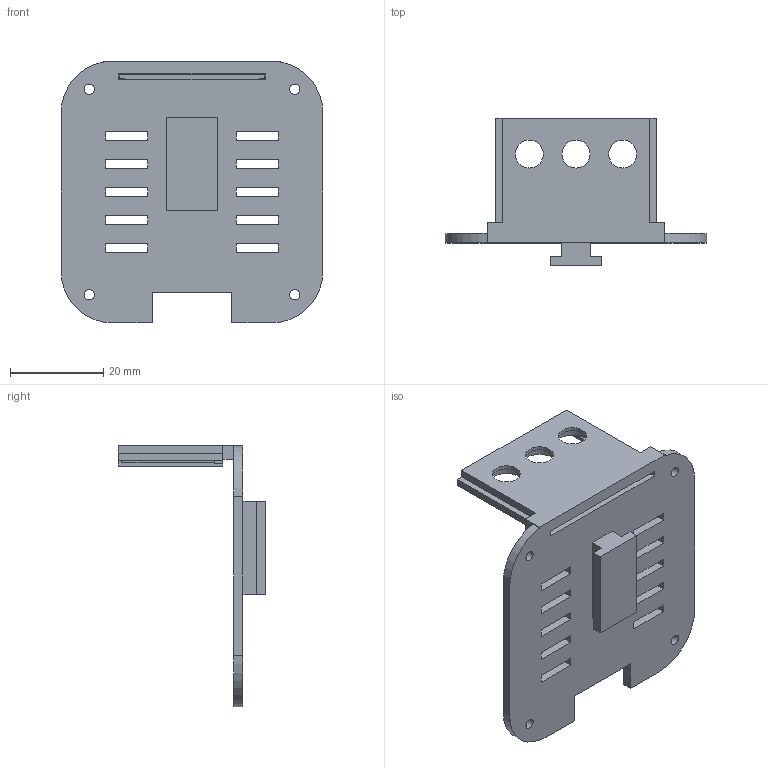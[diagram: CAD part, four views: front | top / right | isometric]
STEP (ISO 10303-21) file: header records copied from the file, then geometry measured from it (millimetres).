
FILE_DESCRIPTION(('Open CASCADE Model'),'2;1');
FILE_NAME('Open CASCADE Shape Model','2026-09-28T23:13:59',('Author'),( 'Open CASCADE'),'Open CASCADE STEP processor 7.8','Open CASCADE 7.8' ,'Unknown');
FILE_SCHEMA(('AUTOMOTIVE_DESIGN { 1 0 10303 214 1 1 1 1 }'));
Length unit declared in the file: millimetre
Products named in the file (1): Open CASCADE STEP translator 7.8 3
Bounding box: 56 x 31.6 x 56 mm (x, y, z)
Volume: 8215.4 mm3; surface area: 9193.5 mm2
Topology: 1 solids, 1 shells, 117 faces, 334 edges, 222 vertices
Faces by surface type: plane 103, cylinder 14
Full cylindrical faces by diameter (mm): 2.2 x4, 6 x3, 8.2 x3
Entity records: 8002 total; most frequent: CARTESIAN_POINT 1668, DIRECTION 1020, LINE 716, VECTOR 716, ORIENTED_EDGE 668, PCURVE 668, DEFINITIONAL_REPRESENTATION 668, EDGE_CURVE 334
